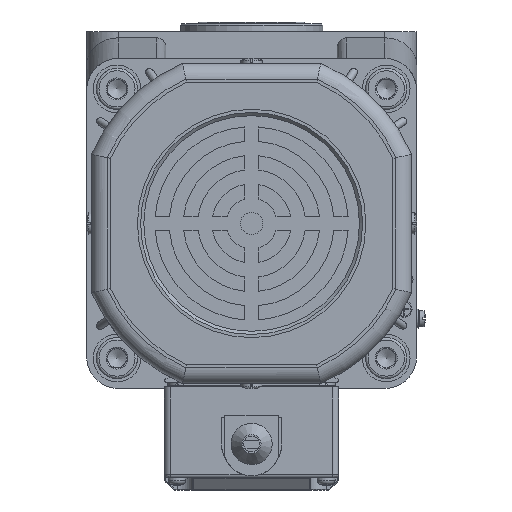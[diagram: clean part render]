
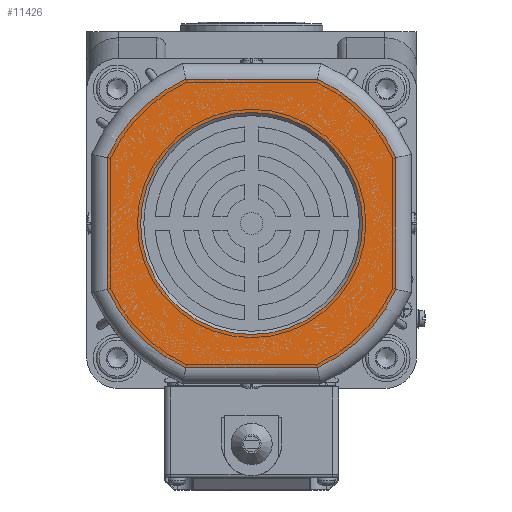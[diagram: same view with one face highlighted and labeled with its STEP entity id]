
A CAD part, left-side view. The second image highlights one B-rep face of the part: STEP entity #11426.
In plain terms, the highlighted planar face has unit normal (-1, 0, 0).
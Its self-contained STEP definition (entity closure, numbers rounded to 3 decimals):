
#1759=LINE('',#65333,#4422);
#1760=LINE('',#65349,#4423);
#1763=LINE('',#65401,#4426);
#1764=LINE('',#65417,#4427);
#4422=VECTOR('',#50946,1.);
#4423=VECTOR('',#50949,1.);
#4426=VECTOR('',#50966,1.);
#4427=VECTOR('',#50969,1.);
#7741=PLANE('',#44042);
#9838=FACE_BOUND('',#16277,.T.);
#9839=FACE_BOUND('',#16278,.T.);
#11426=ADVANCED_FACE('',(#9838,#9839),#7741,.F.);
#16277=EDGE_LOOP('',(#22806));
#16278=EDGE_LOOP('',(#22807,#22808,#22809,#22810,#22811,#22812,#22813,#22814));
#22806=ORIENTED_EDGE('',*,*,#36038,.T.);
#22807=ORIENTED_EDGE('',*,*,#36048,.T.);
#22808=ORIENTED_EDGE('',*,*,#36043,.T.);
#22809=ORIENTED_EDGE('',*,*,#36050,.T.);
#22810=ORIENTED_EDGE('',*,*,#36056,.T.);
#22811=ORIENTED_EDGE('',*,*,#36062,.T.);
#22812=ORIENTED_EDGE('',*,*,#36064,.T.);
#22813=ORIENTED_EDGE('',*,*,#36060,.T.);
#22814=ORIENTED_EDGE('',*,*,#36054,.T.);
#31371=VERTEX_POINT('',#65278);
#31376=VERTEX_POINT('',#65300);
#31377=VERTEX_POINT('',#65302);
#31379=VERTEX_POINT('',#65330);
#31382=VERTEX_POINT('',#65348);
#31383=VERTEX_POINT('',#65364);
#31386=VERTEX_POINT('',#65382);
#31387=VERTEX_POINT('',#65398);
#31390=VERTEX_POINT('',#65416);
#36038=EDGE_CURVE('',#31371,#31371,#40730,.T.);
#36043=EDGE_CURVE('',#31377,#31376,#40734,.T.);
#36048=EDGE_CURVE('',#31379,#31377,#1759,.T.);
#36050=EDGE_CURVE('',#31376,#31382,#1760,.T.);
#36054=EDGE_CURVE('',#31383,#31379,#40737,.T.);
#36056=EDGE_CURVE('',#31382,#31386,#40738,.T.);
#36060=EDGE_CURVE('',#31387,#31383,#1763,.T.);
#36062=EDGE_CURVE('',#31386,#31390,#1764,.T.);
#36064=EDGE_CURVE('',#31390,#31387,#40740,.T.);
#40730=CIRCLE('',#43780,35.);
#40734=CIRCLE('',#43786,50.);
#40737=CIRCLE('',#43792,50.);
#40738=CIRCLE('',#43794,50.);
#40740=CIRCLE('',#43799,50.);
#43780=AXIS2_PLACEMENT_3D('',#65277,#50927,#50928);
#43786=AXIS2_PLACEMENT_3D('',#65301,#50939,#50940);
#43792=AXIS2_PLACEMENT_3D('',#65367,#50955,#50956);
#43794=AXIS2_PLACEMENT_3D('',#65383,#50959,#50960);
#43799=AXIS2_PLACEMENT_3D('',#65420,#50973,#50974);
#44042=AXIS2_PLACEMENT_3D('',#66169,#51651,#51652);
#50927=DIRECTION('',(1.,0.,0.));
#50928=DIRECTION('',(0.,-1.,0.));
#50939=DIRECTION('',(-1.,0.,0.));
#50940=DIRECTION('',(0.,0.,1.));
#50946=DIRECTION('',(0.,-1.,0.));
#50949=DIRECTION('',(0.,0.,1.));
#50955=DIRECTION('',(-1.,0.,0.));
#50956=DIRECTION('',(0.,0.,1.));
#50959=DIRECTION('',(-1.,0.,0.));
#50960=DIRECTION('',(0.,0.,1.));
#50966=DIRECTION('',(0.,0.,-1.));
#50969=DIRECTION('',(0.,1.,0.));
#50973=DIRECTION('',(-1.,0.,0.));
#50974=DIRECTION('',(0.,0.,1.));
#51651=DIRECTION('',(1.,0.,0.));
#51652=DIRECTION('',(0.,0.,1.));
#65277=CARTESIAN_POINT('',(-204.8,-120.671,-58.491));
#65278=CARTESIAN_POINT('',(-204.8,-155.671,-58.491));
#65300=CARTESIAN_POINT('',(-204.8,-166.171,-79.221));
#65301=CARTESIAN_POINT('',(-204.8,-120.671,-58.491));
#65302=CARTESIAN_POINT('',(-204.8,-141.402,-103.991));
#65330=CARTESIAN_POINT('',(-204.8,-99.941,-103.991));
#65333=CARTESIAN_POINT('',(-204.8,-142.46,-103.991));
#65348=CARTESIAN_POINT('',(-204.8,-166.171,-37.76));
#65349=CARTESIAN_POINT('',(-204.8,-166.171,-36.702));
#65364=CARTESIAN_POINT('',(-204.8,-75.171,-79.221));
#65367=CARTESIAN_POINT('',(-204.8,-120.671,-58.491));
#65382=CARTESIAN_POINT('',(-204.8,-141.402,-12.991));
#65383=CARTESIAN_POINT('',(-204.8,-120.671,-58.491));
#65398=CARTESIAN_POINT('',(-204.8,-75.171,-37.76));
#65401=CARTESIAN_POINT('',(-204.8,-75.171,-80.28));
#65416=CARTESIAN_POINT('',(-204.8,-99.941,-12.991));
#65417=CARTESIAN_POINT('',(-204.8,-98.882,-12.991));
#65420=CARTESIAN_POINT('',(-204.8,-120.671,-58.491));
#66169=CARTESIAN_POINT('',(-204.8,-120.671,-58.491));
